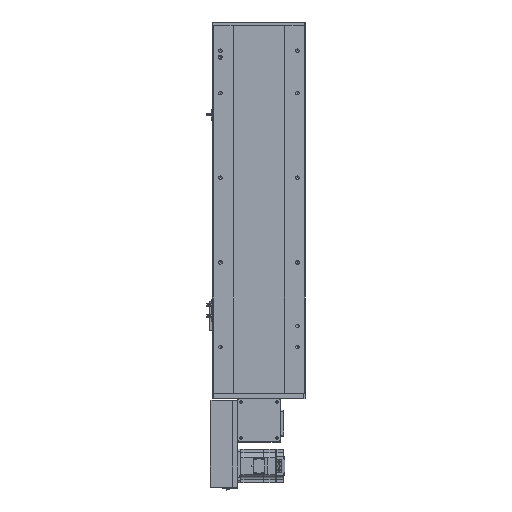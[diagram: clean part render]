
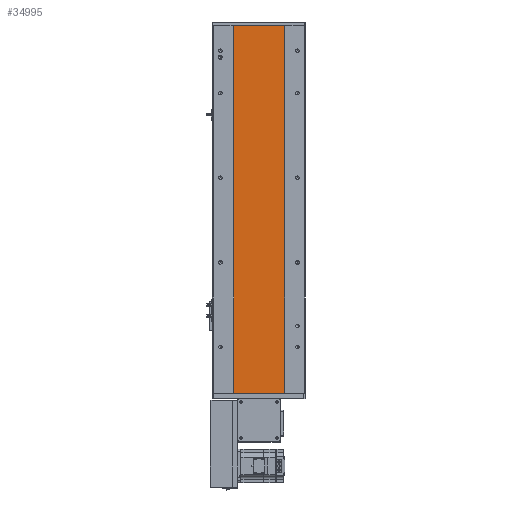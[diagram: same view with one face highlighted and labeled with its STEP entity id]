
A CAD part, front view. The second image highlights one B-rep face of the part: STEP entity #34995.
In plain terms, the highlighted planar face has unit normal (0, -1, 0).
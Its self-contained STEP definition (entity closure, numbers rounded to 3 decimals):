
#1272 = DIRECTION ( 'NONE',  ( 0., 1., 0. ) ) ;
#2964 = ORIENTED_EDGE ( 'NONE', *, *, #41805, .T. ) ;
#3449 = ORIENTED_EDGE ( 'NONE', *, *, #23646, .T. ) ;
#6105 = EDGE_CURVE ( 'NONE', #39349, #40639, #24637, .T. ) ;
#7061 = LINE ( 'NONE', #10327, #14144 ) ;
#7165 = AXIS2_PLACEMENT_3D ( 'NONE', #34188, #1272, #15998 ) ;
#8396 = VERTEX_POINT ( 'NONE', #40551 ) ;
#10327 = CARTESIAN_POINT ( 'NONE',  ( 551.58, 155.016, 869. ) ) ;
#11404 = LINE ( 'NONE', #26614, #18035 ) ;
#12945 = CARTESIAN_POINT ( 'NONE',  ( 0., 155.016, 869. ) ) ;
#14144 = VECTOR ( 'NONE', #14312, 1000. ) ;
#14312 = DIRECTION ( 'NONE',  ( 0., 0., -1. ) ) ;
#15690 = EDGE_CURVE ( 'NONE', #40639, #8396, #7061, .T. ) ;
#15998 = DIRECTION ( 'NONE',  ( 0., 0., 1. ) ) ;
#18035 = VECTOR ( 'NONE', #45028, 1000. ) ;
#19014 = PLANE ( 'NONE',  #7165 ) ;
#19682 = ORIENTED_EDGE ( 'NONE', *, *, #15690, .F. ) ;
#23646 = EDGE_CURVE ( 'NONE', #43220, #8396, #36427, .T. ) ;
#24582 = EDGE_LOOP ( 'NONE', ( #3449, #19682, #30181, #2964 ) ) ;
#24637 = LINE ( 'NONE', #12945, #30480 ) ;
#26614 = CARTESIAN_POINT ( 'NONE',  ( 432.408, 155.016, 869. ) ) ;
#29435 = CARTESIAN_POINT ( 'NONE',  ( 0., 155.016, 0. ) ) ;
#30181 = ORIENTED_EDGE ( 'NONE', *, *, #6105, .F. ) ;
#30480 = VECTOR ( 'NONE', #39334, 1000. ) ;
#31274 = CARTESIAN_POINT ( 'NONE',  ( 551.58, 155.016, 869. ) ) ;
#32660 = VECTOR ( 'NONE', #32681, 1000. ) ;
#32681 = DIRECTION ( 'NONE',  ( 1., 0., 0. ) ) ;
#34188 = CARTESIAN_POINT ( 'NONE',  ( 0., 155.016, 869. ) ) ;
#34995 = ADVANCED_FACE ( 'NONE', ( #37915 ), #19014, .F. ) ;
#36427 = LINE ( 'NONE', #29435, #32660 ) ;
#37915 = FACE_OUTER_BOUND ( 'NONE', #24582, .T. ) ;
#39334 = DIRECTION ( 'NONE',  ( 1., 0., 0. ) ) ;
#39349 = VERTEX_POINT ( 'NONE', #41689 ) ;
#40551 = CARTESIAN_POINT ( 'NONE',  ( 551.58, 155.016, 0. ) ) ;
#40639 = VERTEX_POINT ( 'NONE', #31274 ) ;
#41689 = CARTESIAN_POINT ( 'NONE',  ( 432.408, 155.016, 869. ) ) ;
#41805 = EDGE_CURVE ( 'NONE', #39349, #43220, #11404, .T. ) ;
#43220 = VERTEX_POINT ( 'NONE', #43721 ) ;
#43721 = CARTESIAN_POINT ( 'NONE',  ( 432.408, 155.016, 0. ) ) ;
#45028 = DIRECTION ( 'NONE',  ( 0., 0., -1. ) ) ;
